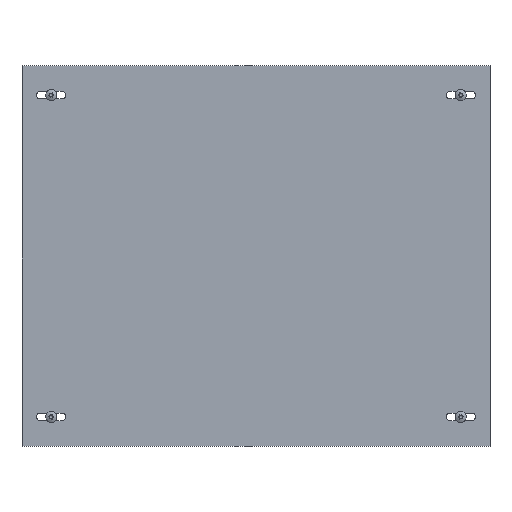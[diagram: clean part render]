
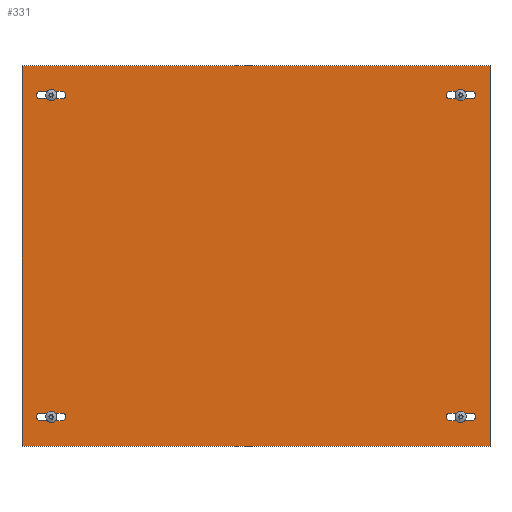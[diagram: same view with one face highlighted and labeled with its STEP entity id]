
A CAD part, top view. The second image highlights one B-rep face of the part: STEP entity #331.
In plain terms, the highlighted planar face has unit normal (0, 0, 1).
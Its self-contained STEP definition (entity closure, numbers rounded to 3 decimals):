
#55 = EDGE_CURVE('',#56,#58,#60,.T.);
#56 = VERTEX_POINT('',#57);
#57 = CARTESIAN_POINT('',(-200.,162.5,0.));
#58 = VERTEX_POINT('',#59);
#59 = CARTESIAN_POINT('',(-200.,-162.5,0.));
#60 = LINE('',#61,#62);
#61 = CARTESIAN_POINT('',(-200.,-162.5,0.));
#62 = VECTOR('',#63,1.);
#63 = DIRECTION('',(-0.,-1.,-0.));
#95 = EDGE_CURVE('',#96,#56,#98,.T.);
#96 = VERTEX_POINT('',#97);
#97 = CARTESIAN_POINT('',(200.,162.5,0.));
#98 = LINE('',#99,#100);
#99 = CARTESIAN_POINT('',(200.,162.5,0.));
#100 = VECTOR('',#101,1.);
#101 = DIRECTION('',(-1.,0.,0.));
#126 = EDGE_CURVE('',#127,#96,#129,.T.);
#127 = VERTEX_POINT('',#128);
#128 = CARTESIAN_POINT('',(200.,-162.5,0.));
#129 = LINE('',#130,#131);
#130 = CARTESIAN_POINT('',(200.,-162.5,0.));
#131 = VECTOR('',#132,1.);
#132 = DIRECTION('',(0.,1.,0.));
#157 = EDGE_CURVE('',#58,#127,#158,.T.);
#158 = LINE('',#159,#160);
#159 = CARTESIAN_POINT('',(200.,-162.5,0.));
#160 = VECTOR('',#161,1.);
#161 = DIRECTION('',(1.,0.,-0.));
#331 = ADVANCED_FACE('',(#332,#368,#404,#440,#476),#482,.T.);
#332 = FACE_BOUND('',#333,.T.);
#333 = EDGE_LOOP('',(#334,#345,#353,#362));
#334 = ORIENTED_EDGE('',*,*,#335,.F.);
#335 = EDGE_CURVE('',#336,#338,#340,.T.);
#336 = VERTEX_POINT('',#337);
#337 = CARTESIAN_POINT('',(-165.75,-140.75,0.));
#338 = VERTEX_POINT('',#339);
#339 = CARTESIAN_POINT('',(-165.75,-134.25,0.));
#340 = CIRCLE('',#341,3.25);
#341 = AXIS2_PLACEMENT_3D('',#342,#343,#344);
#342 = CARTESIAN_POINT('',(-165.75,-137.5,0.));
#343 = DIRECTION('',(0.,0.,1.));
#344 = DIRECTION('',(1.,0.,-0.));
#345 = ORIENTED_EDGE('',*,*,#346,.F.);
#346 = EDGE_CURVE('',#347,#336,#349,.T.);
#347 = VERTEX_POINT('',#348);
#348 = CARTESIAN_POINT('',(-184.25,-140.75,0.));
#349 = LINE('',#350,#351);
#350 = CARTESIAN_POINT('',(-165.75,-140.75,0.));
#351 = VECTOR('',#352,1.);
#352 = DIRECTION('',(1.,-0.,-0.));
#353 = ORIENTED_EDGE('',*,*,#354,.F.);
#354 = EDGE_CURVE('',#355,#347,#357,.T.);
#355 = VERTEX_POINT('',#356);
#356 = CARTESIAN_POINT('',(-184.25,-134.25,0.));
#357 = CIRCLE('',#358,3.25);
#358 = AXIS2_PLACEMENT_3D('',#359,#360,#361);
#359 = CARTESIAN_POINT('',(-184.25,-137.5,0.));
#360 = DIRECTION('',(0.,0.,1.));
#361 = DIRECTION('',(1.,0.,-0.));
#362 = ORIENTED_EDGE('',*,*,#363,.F.);
#363 = EDGE_CURVE('',#338,#355,#364,.T.);
#364 = LINE('',#365,#366);
#365 = CARTESIAN_POINT('',(-165.75,-134.25,0.));
#366 = VECTOR('',#367,1.);
#367 = DIRECTION('',(-1.,0.,0.));
#368 = FACE_BOUND('',#369,.T.);
#369 = EDGE_LOOP('',(#370,#381,#389,#398));
#370 = ORIENTED_EDGE('',*,*,#371,.F.);
#371 = EDGE_CURVE('',#372,#374,#376,.T.);
#372 = VERTEX_POINT('',#373);
#373 = CARTESIAN_POINT('',(-165.75,134.25,0.));
#374 = VERTEX_POINT('',#375);
#375 = CARTESIAN_POINT('',(-165.75,140.75,0.));
#376 = CIRCLE('',#377,3.25);
#377 = AXIS2_PLACEMENT_3D('',#378,#379,#380);
#378 = CARTESIAN_POINT('',(-165.75,137.5,0.));
#379 = DIRECTION('',(0.,0.,1.));
#380 = DIRECTION('',(-1.,0.,0.));
#381 = ORIENTED_EDGE('',*,*,#382,.F.);
#382 = EDGE_CURVE('',#383,#372,#385,.T.);
#383 = VERTEX_POINT('',#384);
#384 = CARTESIAN_POINT('',(-184.25,134.25,0.));
#385 = LINE('',#386,#387);
#386 = CARTESIAN_POINT('',(-165.75,134.25,0.));
#387 = VECTOR('',#388,1.);
#388 = DIRECTION('',(1.,-0.,-0.));
#389 = ORIENTED_EDGE('',*,*,#390,.F.);
#390 = EDGE_CURVE('',#391,#383,#393,.T.);
#391 = VERTEX_POINT('',#392);
#392 = CARTESIAN_POINT('',(-184.25,140.75,0.));
#393 = CIRCLE('',#394,3.25);
#394 = AXIS2_PLACEMENT_3D('',#395,#396,#397);
#395 = CARTESIAN_POINT('',(-184.25,137.5,0.));
#396 = DIRECTION('',(0.,0.,1.));
#397 = DIRECTION('',(-1.,0.,0.));
#398 = ORIENTED_EDGE('',*,*,#399,.F.);
#399 = EDGE_CURVE('',#374,#391,#400,.T.);
#400 = LINE('',#401,#402);
#401 = CARTESIAN_POINT('',(-165.75,140.75,0.));
#402 = VECTOR('',#403,1.);
#403 = DIRECTION('',(-1.,0.,0.));
#404 = FACE_BOUND('',#405,.T.);
#405 = EDGE_LOOP('',(#406,#417,#425,#434));
#406 = ORIENTED_EDGE('',*,*,#407,.F.);
#407 = EDGE_CURVE('',#408,#410,#412,.T.);
#408 = VERTEX_POINT('',#409);
#409 = CARTESIAN_POINT('',(165.75,140.75,0.));
#410 = VERTEX_POINT('',#411);
#411 = CARTESIAN_POINT('',(165.75,134.25,0.));
#412 = CIRCLE('',#413,3.25);
#413 = AXIS2_PLACEMENT_3D('',#414,#415,#416);
#414 = CARTESIAN_POINT('',(165.75,137.5,0.));
#415 = DIRECTION('',(0.,0.,1.));
#416 = DIRECTION('',(1.,0.,-0.));
#417 = ORIENTED_EDGE('',*,*,#418,.F.);
#418 = EDGE_CURVE('',#419,#408,#421,.T.);
#419 = VERTEX_POINT('',#420);
#420 = CARTESIAN_POINT('',(184.25,140.75,0.));
#421 = LINE('',#422,#423);
#422 = CARTESIAN_POINT('',(165.75,140.75,0.));
#423 = VECTOR('',#424,1.);
#424 = DIRECTION('',(-1.,-0.,-0.));
#425 = ORIENTED_EDGE('',*,*,#426,.F.);
#426 = EDGE_CURVE('',#427,#419,#429,.T.);
#427 = VERTEX_POINT('',#428);
#428 = CARTESIAN_POINT('',(184.25,134.25,0.));
#429 = CIRCLE('',#430,3.25);
#430 = AXIS2_PLACEMENT_3D('',#431,#432,#433);
#431 = CARTESIAN_POINT('',(184.25,137.5,0.));
#432 = DIRECTION('',(0.,0.,1.));
#433 = DIRECTION('',(1.,0.,-0.));
#434 = ORIENTED_EDGE('',*,*,#435,.F.);
#435 = EDGE_CURVE('',#410,#427,#436,.T.);
#436 = LINE('',#437,#438);
#437 = CARTESIAN_POINT('',(165.75,134.25,0.));
#438 = VECTOR('',#439,1.);
#439 = DIRECTION('',(1.,0.,0.));
#440 = FACE_BOUND('',#441,.T.);
#441 = EDGE_LOOP('',(#442,#453,#461,#470));
#442 = ORIENTED_EDGE('',*,*,#443,.F.);
#443 = EDGE_CURVE('',#444,#446,#448,.T.);
#444 = VERTEX_POINT('',#445);
#445 = CARTESIAN_POINT('',(165.75,-134.25,0.));
#446 = VERTEX_POINT('',#447);
#447 = CARTESIAN_POINT('',(165.75,-140.75,0.));
#448 = CIRCLE('',#449,3.25);
#449 = AXIS2_PLACEMENT_3D('',#450,#451,#452);
#450 = CARTESIAN_POINT('',(165.75,-137.5,0.));
#451 = DIRECTION('',(0.,0.,1.));
#452 = DIRECTION('',(-1.,0.,0.));
#453 = ORIENTED_EDGE('',*,*,#454,.F.);
#454 = EDGE_CURVE('',#455,#444,#457,.T.);
#455 = VERTEX_POINT('',#456);
#456 = CARTESIAN_POINT('',(184.25,-134.25,0.));
#457 = LINE('',#458,#459);
#458 = CARTESIAN_POINT('',(165.75,-134.25,0.));
#459 = VECTOR('',#460,1.);
#460 = DIRECTION('',(-1.,-0.,-0.));
#461 = ORIENTED_EDGE('',*,*,#462,.F.);
#462 = EDGE_CURVE('',#463,#455,#465,.T.);
#463 = VERTEX_POINT('',#464);
#464 = CARTESIAN_POINT('',(184.25,-140.75,0.));
#465 = CIRCLE('',#466,3.25);
#466 = AXIS2_PLACEMENT_3D('',#467,#468,#469);
#467 = CARTESIAN_POINT('',(184.25,-137.5,0.));
#468 = DIRECTION('',(0.,0.,1.));
#469 = DIRECTION('',(-1.,0.,0.));
#470 = ORIENTED_EDGE('',*,*,#471,.F.);
#471 = EDGE_CURVE('',#446,#463,#472,.T.);
#472 = LINE('',#473,#474);
#473 = CARTESIAN_POINT('',(165.75,-140.75,0.));
#474 = VECTOR('',#475,1.);
#475 = DIRECTION('',(1.,0.,0.));
#476 = FACE_BOUND('',#477,.T.);
#477 = EDGE_LOOP('',(#478,#479,#480,#481));
#478 = ORIENTED_EDGE('',*,*,#55,.T.);
#479 = ORIENTED_EDGE('',*,*,#157,.T.);
#480 = ORIENTED_EDGE('',*,*,#126,.T.);
#481 = ORIENTED_EDGE('',*,*,#95,.T.);
#482 = PLANE('',#483);
#483 = AXIS2_PLACEMENT_3D('',#484,#485,#486);
#484 = CARTESIAN_POINT('',(0.,0.,0.));
#485 = DIRECTION('',(0.,-0.,1.));
#486 = DIRECTION('',(1.,0.,0.));
